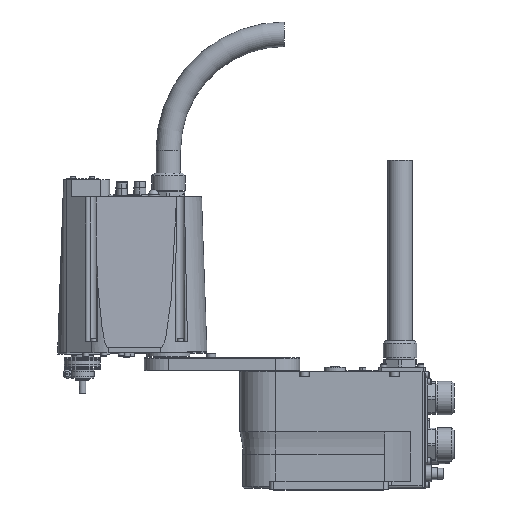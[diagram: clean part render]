
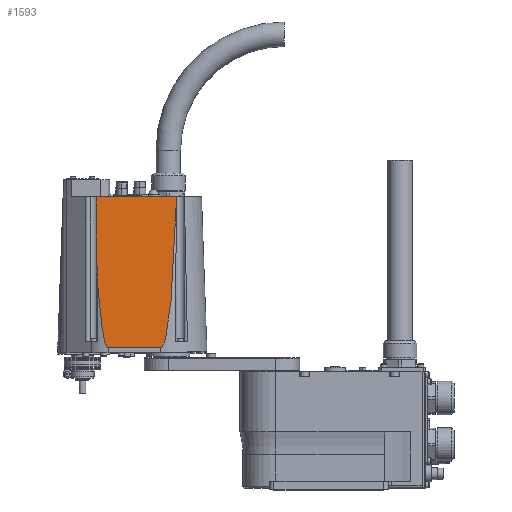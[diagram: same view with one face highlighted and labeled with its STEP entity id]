
A CAD part, top view. The second image highlights one B-rep face of the part: STEP entity #1593.
In plain terms, the highlighted planar face has unit normal (0, 0.035, 0.999).
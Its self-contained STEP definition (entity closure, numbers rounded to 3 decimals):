
#1593 = ADVANCED_FACE( '', ( #4684 ), #4685, .F. );
#4684 = FACE_OUTER_BOUND( '', #8146, .T. );
#4685 = PLANE( '', #8147 );
#8146 = EDGE_LOOP( '', ( #18676, #18677, #18678, #18679, #18680, #18681 ) );
#8147 = AXIS2_PLACEMENT_3D( '', #18682, #18683, #18684 );
#18676 = ORIENTED_EDGE( '', *, *, #24104, .T. );
#18677 = ORIENTED_EDGE( '', *, *, #24105, .T. );
#18678 = ORIENTED_EDGE( '', *, *, #24112, .F. );
#18679 = ORIENTED_EDGE( '', *, *, #24113, .F. );
#18680 = ORIENTED_EDGE( '', *, *, #24075, .F. );
#18681 = ORIENTED_EDGE( '', *, *, #24059, .T. );
#18682 = CARTESIAN_POINT( '', ( -16.2, 157.5, 54.21 ) );
#18683 = DIRECTION( '', ( 0., -0.035, -0.999 ) );
#18684 = DIRECTION( '', ( 0., -0.999, 0.035 ) );
#24059 = EDGE_CURVE( '', #29903, #29901, #29904, .T. );
#24075 = EDGE_CURVE( '', #29903, #29928, #29929, .T. );
#24104 = EDGE_CURVE( '', #29901, #29970, #29972, .T. );
#24105 = EDGE_CURVE( '', #29970, #29973, #29974, .T. );
#24112 = EDGE_CURVE( '', #29984, #29973, #29985, .T. );
#24113 = EDGE_CURVE( '', #29928, #29984, #29986, .T. );
#29901 = VERTEX_POINT( '', #38131 );
#29903 = VERTEX_POINT( '', #38133 );
#29904 = LINE( '', #38134, #38135 );
#29928 = VERTEX_POINT( '', #38220 );
#29929 = ELLIPSE( '', #38221, 1548.243, 54. );
#29970 = VERTEX_POINT( '', #38278 );
#29972 = ELLIPSE( '', #38281, 85.961, 3. );
#29973 = VERTEX_POINT( '', #38282 );
#29974 = LINE( '', #38283, #38284 );
#29984 = VERTEX_POINT( '', #38299 );
#29985 = ELLIPSE( '', #38300, 859.611, 30. );
#29986 = LINE( '', #38301, #38302 );
#38131 = CARTESIAN_POINT( '', ( -208.931, 339.3, 47.861 ) );
#38133 = CARTESIAN_POINT( '', ( -115.327, 339.3, 47.861 ) );
#38134 = CARTESIAN_POINT( '', ( -120.6, 339.3, 47.861 ) );
#38135 = VECTOR( '', #44991, 1. );
#38220 = CARTESIAN_POINT( '', ( -134.21, 163.5, 54. ) );
#38221 = AXIS2_PLACEMENT_3D( '', #45025, #45026, #45027 );
#38278 = CARTESIAN_POINT( '', ( -207.1, 241.074, 51.291 ) );
#38281 = AXIS2_PLACEMENT_3D( '', #45078, #45079, #45080 );
#38282 = CARTESIAN_POINT( '', ( -207.1, 235.221, 51.495 ) );
#38283 = CARTESIAN_POINT( '', ( -207.1, 164.043, 53.981 ) );
#38284 = VECTOR( '', #45081, 1. );
#38299 = CARTESIAN_POINT( '', ( -195.1, 163.5, 54. ) );
#38300 = AXIS2_PLACEMENT_3D( '', #45090, #45091, #45092 );
#38301 = CARTESIAN_POINT( '', ( -75.1, 163.5, 54. ) );
#38302 = VECTOR( '', #45093, 1. );
#44991 = DIRECTION( '', ( -1., 0., 0. ) );
#45025 = CARTESIAN_POINT( '', ( -188.21, 1709.858, 0. ) );
#45026 = DIRECTION( '', ( 0., -0.035, -0.999 ) );
#45027 = DIRECTION( '', ( 0.035, -0.999, 0.035 ) );
#45078 = CARTESIAN_POINT( '', ( -206., 320.999, 48.5 ) );
#45079 = DIRECTION( '', ( 0., 0.035, 0.999 ) );
#45080 = DIRECTION( '', ( 0., -0.999, 0.035 ) );
#45081 = DIRECTION( '', ( 0., -0.999, 0.035 ) );
#45090 = CARTESIAN_POINT( '', ( -195.1, 1022.588, 24. ) );
#45091 = DIRECTION( '', ( 0., -0.035, -0.999 ) );
#45092 = DIRECTION( '', ( 0., -0.999, 0.035 ) );
#45093 = DIRECTION( '', ( -1., 0., 0. ) );
